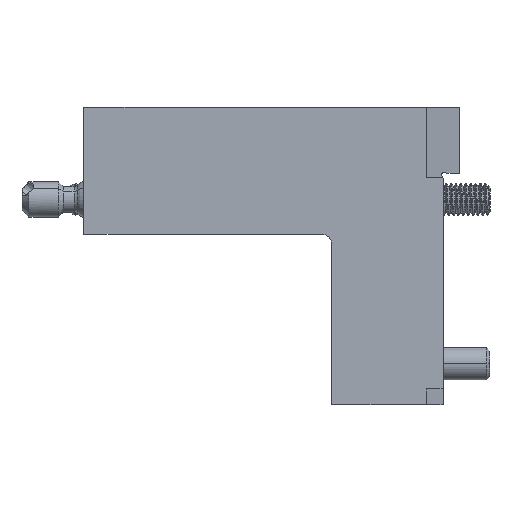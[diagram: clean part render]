
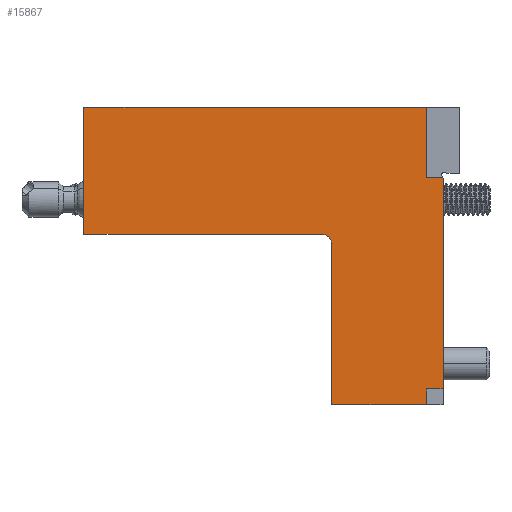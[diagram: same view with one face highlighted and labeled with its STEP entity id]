
A CAD part, left-side view. The second image highlights one B-rep face of the part: STEP entity #15867.
In plain terms, the highlighted planar face has unit normal (-1, 0, 0).
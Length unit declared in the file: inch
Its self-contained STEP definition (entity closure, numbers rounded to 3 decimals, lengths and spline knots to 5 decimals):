
#132 = CARTESIAN_POINT ( 'NONE',  ( -1.77165, -0.95, 0. ) ) ;
#612 = EDGE_CURVE ( 'NONE', #26234, #7574, #21192, .T. ) ;
#981 = VECTOR ( 'NONE', #4259, 39.37008 ) ;
#1250 = VECTOR ( 'NONE', #2051, 39.37008 ) ;
#1415 = CARTESIAN_POINT ( 'NONE',  ( -1.77165, 3.6, 3.6 ) ) ;
#1524 = EDGE_CURVE ( 'NONE', #14040, #25104, #21567, .T. ) ;
#1540 = CARTESIAN_POINT ( 'NONE',  ( -1.77165, -0.75, 2.7385 ) ) ;
#1820 = ORIENTED_EDGE ( 'NONE', *, *, #27059, .F. ) ;
#1928 = CARTESIAN_POINT ( 'NONE',  ( -1.77165, 0.72, 1.9426 ) ) ;
#2051 = DIRECTION ( 'NONE',  ( 0., -1., 0. ) ) ;
#2089 = LINE ( 'NONE', #21576, #12281 ) ;
#2374 = CARTESIAN_POINT ( 'NONE',  ( -1.77165, -0.95, 2.75 ) ) ;
#3352 = LINE ( 'NONE', #18329, #18033 ) ;
#4259 = DIRECTION ( 'NONE',  ( 0., 1., 0. ) ) ;
#4449 = EDGE_LOOP ( 'NONE', ( #21973, #27627, #25613, #21772, #12357, #14255, #26600, #1820, #19588, #8715, #4813, #5383 ) ) ;
#4813 = ORIENTED_EDGE ( 'NONE', *, *, #20529, .T. ) ;
#5275 = PLANE ( 'NONE',  #12619 ) ;
#5383 = ORIENTED_EDGE ( 'NONE', *, *, #23684, .T. ) ;
#5732 = CIRCLE ( 'NONE', #20311, 0.12 ) ;
#6229 = CARTESIAN_POINT ( 'NONE',  ( -1.77165, -0.55, 3.6 ) ) ;
#6424 = DIRECTION ( 'NONE',  ( 0., 0., 1. ) ) ;
#6471 = CARTESIAN_POINT ( 'NONE',  ( -1.77165, -0.55, 0.19 ) ) ;
#6680 = VERTEX_POINT ( 'NONE', #27121 ) ;
#7574 = VERTEX_POINT ( 'NONE', #19231 ) ;
#7723 = VECTOR ( 'NONE', #11057, 39.37008 ) ;
#8042 = VECTOR ( 'NONE', #15920, 39.37008 ) ;
#8715 = ORIENTED_EDGE ( 'NONE', *, *, #14973, .T. ) ;
#10375 = DIRECTION ( 'NONE',  ( 0., 0., -1. ) ) ;
#10480 = VECTOR ( 'NONE', #18205, 39.37008 ) ;
#10675 = CARTESIAN_POINT ( 'NONE',  ( -1.77165, 0.6, 6.70534 ) ) ;
#11057 = DIRECTION ( 'NONE',  ( 0., 1., 0. ) ) ;
#11243 = VERTEX_POINT ( 'NONE', #23345 ) ;
#11512 = VECTOR ( 'NONE', #10375, 39.37008 ) ;
#11550 = FACE_OUTER_BOUND ( 'NONE', #4449, .T. ) ;
#11574 = VERTEX_POINT ( 'NONE', #6229 ) ;
#11823 = EDGE_CURVE ( 'NONE', #25104, #7574, #24322, .T. ) ;
#11944 = VERTEX_POINT ( 'NONE', #22596 ) ;
#11964 = DIRECTION ( 'NONE',  ( 0., -1., 0. ) ) ;
#12281 = VECTOR ( 'NONE', #22148, 39.37008 ) ;
#12357 = ORIENTED_EDGE ( 'NONE', *, *, #1524, .F. ) ;
#12619 = AXIS2_PLACEMENT_3D ( 'NONE', #18117, #14375, #11964 ) ;
#13955 = EDGE_CURVE ( 'NONE', #11243, #26234, #5732, .T. ) ;
#14040 = VERTEX_POINT ( 'NONE', #24132 ) ;
#14255 = ORIENTED_EDGE ( 'NONE', *, *, #18511, .T. ) ;
#14375 = DIRECTION ( 'NONE',  ( -1., 0., 0. ) ) ;
#14415 = VERTEX_POINT ( 'NONE', #18961 ) ;
#14689 = VECTOR ( 'NONE', #22508, 39.37008 ) ;
#14973 = EDGE_CURVE ( 'NONE', #21815, #11574, #22306, .T. ) ;
#14996 = CARTESIAN_POINT ( 'NONE',  ( -1.77165, -0.75, 0. ) ) ;
#15013 = LINE ( 'NONE', #21535, #1250 ) ;
#15045 = LINE ( 'NONE', #2374, #7723 ) ;
#15584 = EDGE_CURVE ( 'NONE', #11944, #17906, #21374, .T. ) ;
#15867 = ADVANCED_FACE ( 'NONE', ( #11550 ), #5275, .T. ) ;
#15920 = DIRECTION ( 'NONE',  ( 0., 0., 1. ) ) ;
#16511 = LINE ( 'NONE', #27733, #18555 ) ;
#17201 = VECTOR ( 'NONE', #6424, 39.37008 ) ;
#17650 = CARTESIAN_POINT ( 'NONE',  ( -1.77165, -0.55, 2.75 ) ) ;
#17906 = VERTEX_POINT ( 'NONE', #1540 ) ;
#18033 = VECTOR ( 'NONE', #27113, 39.37008 ) ;
#18117 = CARTESIAN_POINT ( 'NONE',  ( -1.77165, -0.95, 3.6 ) ) ;
#18205 = DIRECTION ( 'NONE',  ( 0., -1., 0. ) ) ;
#18329 = CARTESIAN_POINT ( 'NONE',  ( -1.77165, 3.6, 3.6 ) ) ;
#18511 = EDGE_CURVE ( 'NONE', #14040, #11944, #26031, .T. ) ;
#18555 = VECTOR ( 'NONE', #22901, 39.37008 ) ;
#18952 = EDGE_CURVE ( 'NONE', #6680, #21815, #15045, .T. ) ;
#18961 = CARTESIAN_POINT ( 'NONE',  ( -1.77165, 3.6, 2.0626 ) ) ;
#19231 = CARTESIAN_POINT ( 'NONE',  ( -1.77165, 0.6, 0. ) ) ;
#19479 = CARTESIAN_POINT ( 'NONE',  ( -1.77165, -0.55, 0.19 ) ) ;
#19588 = ORIENTED_EDGE ( 'NONE', *, *, #18952, .T. ) ;
#20311 = AXIS2_PLACEMENT_3D ( 'NONE', #1928, #21997, #26415 ) ;
#20529 = EDGE_CURVE ( 'NONE', #11574, #27107, #2089, .T. ) ;
#21192 = LINE ( 'NONE', #10675, #11512 ) ;
#21374 = LINE ( 'NONE', #14996, #17201 ) ;
#21535 = CARTESIAN_POINT ( 'NONE',  ( -1.77165, -0.95, 2.0626 ) ) ;
#21567 = LINE ( 'NONE', #6471, #14689 ) ;
#21576 = CARTESIAN_POINT ( 'NONE',  ( -1.77165, -0.95, 3.6 ) ) ;
#21772 = ORIENTED_EDGE ( 'NONE', *, *, #11823, .F. ) ;
#21815 = VERTEX_POINT ( 'NONE', #17650 ) ;
#21973 = ORIENTED_EDGE ( 'NONE', *, *, #26261, .T. ) ;
#21997 = DIRECTION ( 'NONE',  ( 1., 0., 0. ) ) ;
#22148 = DIRECTION ( 'NONE',  ( 0., 1., 0. ) ) ;
#22306 = LINE ( 'NONE', #26855, #8042 ) ;
#22508 = DIRECTION ( 'NONE',  ( 0., 0., -1. ) ) ;
#22596 = CARTESIAN_POINT ( 'NONE',  ( -1.77165, -0.75, 0.19 ) ) ;
#22901 = DIRECTION ( 'NONE',  ( 0., -0.342, -0.94 ) ) ;
#23345 = CARTESIAN_POINT ( 'NONE',  ( -1.77165, 0.72, 2.0626 ) ) ;
#23684 = EDGE_CURVE ( 'NONE', #27107, #14415, #3352, .T. ) ;
#24132 = CARTESIAN_POINT ( 'NONE',  ( -1.77165, -0.55, 0.19 ) ) ;
#24322 = LINE ( 'NONE', #132, #981 ) ;
#25104 = VERTEX_POINT ( 'NONE', #27293 ) ;
#25613 = ORIENTED_EDGE ( 'NONE', *, *, #612, .T. ) ;
#25669 = CARTESIAN_POINT ( 'NONE',  ( -1.77165, 0.6, 1.9426 ) ) ;
#26031 = LINE ( 'NONE', #19479, #10480 ) ;
#26234 = VERTEX_POINT ( 'NONE', #25669 ) ;
#26261 = EDGE_CURVE ( 'NONE', #14415, #11243, #15013, .T. ) ;
#26415 = DIRECTION ( 'NONE',  ( 0., -1., 0. ) ) ;
#26600 = ORIENTED_EDGE ( 'NONE', *, *, #15584, .T. ) ;
#26855 = CARTESIAN_POINT ( 'NONE',  ( -1.77165, -0.55, 2.75 ) ) ;
#27059 = EDGE_CURVE ( 'NONE', #6680, #17906, #16511, .T. ) ;
#27107 = VERTEX_POINT ( 'NONE', #1415 ) ;
#27113 = DIRECTION ( 'NONE',  ( 0., 0., -1. ) ) ;
#27121 = CARTESIAN_POINT ( 'NONE',  ( -1.77165, -0.74581, 2.75 ) ) ;
#27293 = CARTESIAN_POINT ( 'NONE',  ( -1.77165, -0.55, 0. ) ) ;
#27627 = ORIENTED_EDGE ( 'NONE', *, *, #13955, .T. ) ;
#27733 = CARTESIAN_POINT ( 'NONE',  ( -1.77165, -0.73681, 2.77474 ) ) ;
